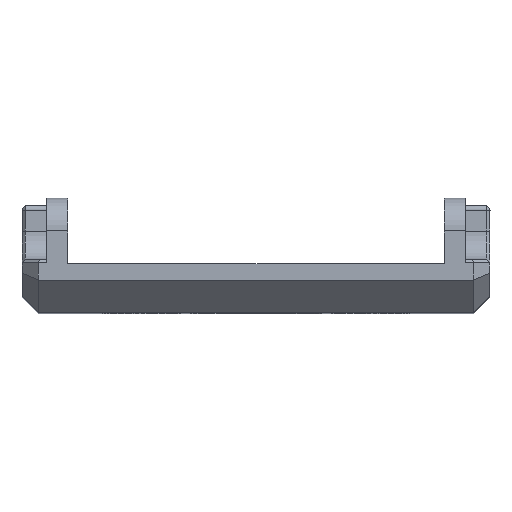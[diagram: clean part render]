
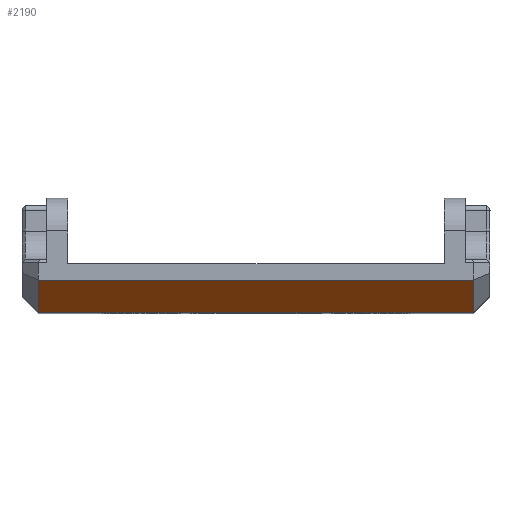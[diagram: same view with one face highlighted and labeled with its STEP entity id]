
A CAD part, top view. The second image highlights one B-rep face of the part: STEP entity #2190.
In plain terms, the highlighted planar face has unit normal (0, -0.707, 0.707) as drawn and (-0.707, 0.707, 0) by its records, which use the part's own axes.
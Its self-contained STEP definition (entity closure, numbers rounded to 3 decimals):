
#206 = DIRECTION ( 'NONE',  ( -0.707, 0.707, 0. ) ) ;
#1458 = VERTEX_POINT ( 'NONE', #12479 ) ;
#1609 = CARTESIAN_POINT ( 'NONE',  ( -15., 3., -13.3 ) ) ;
#2077 = ORIENTED_EDGE ( 'NONE', *, *, #8178, .F. ) ;
#2142 = VECTOR ( 'NONE', #17502, 1000. ) ;
#2190 = ADVANCED_FACE ( 'NONE', ( #7622 ), #20330, .T. ) ;
#2524 = VECTOR ( 'NONE', #2567, 1000. ) ;
#2567 = DIRECTION ( 'NONE',  ( 0.707, 0.707, 0. ) ) ;
#3142 = ORIENTED_EDGE ( 'NONE', *, *, #14855, .F. ) ;
#3279 = DIRECTION ( 'NONE',  ( 0., 0., 1. ) ) ;
#4583 = CARTESIAN_POINT ( 'NONE',  ( -15., 3., 13.3 ) ) ;
#5316 = DIRECTION ( 'NONE',  ( 0., 0., 1. ) ) ;
#5725 = VERTEX_POINT ( 'NONE', #8265 ) ;
#6002 = ORIENTED_EDGE ( 'NONE', *, *, #6175, .F. ) ;
#6175 = EDGE_CURVE ( 'NONE', #11883, #13696, #14163, .T. ) ;
#7622 = FACE_OUTER_BOUND ( 'NONE', #13390, .T. ) ;
#8178 = EDGE_CURVE ( 'NONE', #5725, #1458, #19874, .T. ) ;
#8265 = CARTESIAN_POINT ( 'NONE',  ( -17., 1., -13.3 ) ) ;
#8537 = CARTESIAN_POINT ( 'NONE',  ( -17., 1., -13.3 ) ) ;
#8624 = CARTESIAN_POINT ( 'NONE',  ( -15., 3., 13.3 ) ) ;
#8990 = ORIENTED_EDGE ( 'NONE', *, *, #10262, .T. ) ;
#9116 = AXIS2_PLACEMENT_3D ( 'NONE', #12408, #206, #18673 ) ;
#9800 = LINE ( 'NONE', #8537, #13631 ) ;
#10262 = EDGE_CURVE ( 'NONE', #5725, #13696, #9800, .T. ) ;
#10476 = CARTESIAN_POINT ( 'NONE',  ( -17., 1., -13.3 ) ) ;
#11883 = VERTEX_POINT ( 'NONE', #8624 ) ;
#12408 = CARTESIAN_POINT ( 'NONE',  ( -16., 2., 0. ) ) ;
#12479 = CARTESIAN_POINT ( 'NONE',  ( -15., 3., -13.3 ) ) ;
#13390 = EDGE_LOOP ( 'NONE', ( #2077, #8990, #6002, #3142 ) ) ;
#13631 = VECTOR ( 'NONE', #5316, 1000. ) ;
#13696 = VERTEX_POINT ( 'NONE', #14335 ) ;
#14163 = LINE ( 'NONE', #4583, #2142 ) ;
#14335 = CARTESIAN_POINT ( 'NONE',  ( -17., 1., 13.3 ) ) ;
#14855 = EDGE_CURVE ( 'NONE', #1458, #11883, #18902, .T. ) ;
#16818 = VECTOR ( 'NONE', #3279, 1000. ) ;
#17502 = DIRECTION ( 'NONE',  ( -0.707, -0.707, 0. ) ) ;
#18673 = DIRECTION ( 'NONE',  ( 0., 0., 1. ) ) ;
#18902 = LINE ( 'NONE', #1609, #16818 ) ;
#19874 = LINE ( 'NONE', #10476, #2524 ) ;
#20330 = PLANE ( 'NONE',  #9116 ) ;
